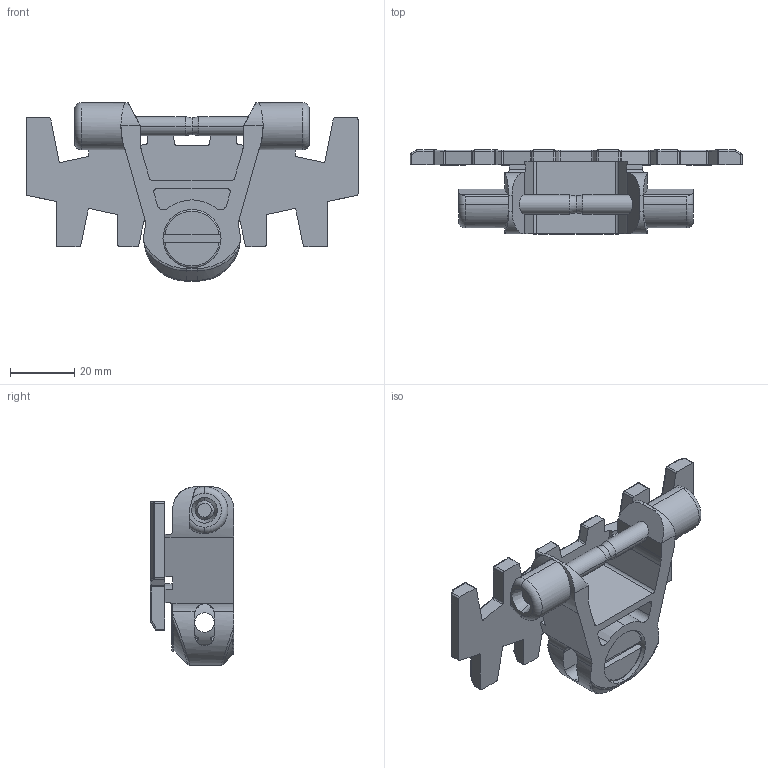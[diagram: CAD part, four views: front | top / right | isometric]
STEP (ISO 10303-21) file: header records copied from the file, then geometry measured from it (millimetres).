
FILE_DESCRIPTION (( 'STEP AP214' ), '1' );
FILE_NAME ('FCPC 5.step', '2017-04-04T13:29:12', ( '' ), ( '' ), 'SwSTEP 2.0', 'SolidWorks 2015', '' );
FILE_SCHEMA (( 'AUTOMOTIVE_DESIGN' ));
Length unit declared in the file: millimetre
Products named in the file (1): FCPC 5
Bounding box: 103 x 26 x 55.3 mm (x, y, z)
Volume: 33742.5 mm3; surface area: 20711.7 mm2
Topology: 3 solids, 3 shells, 451 faces, 1144 edges, 664 vertices
Faces by surface type: cylinder 208, plane 125, torus 52, sphere 50, cone 12, bspline 4
Entity records: 19483 total; most frequent: CARTESIAN_POINT 3782, DIRECTION 2352, ORIENTED_EDGE 2208, EDGE_CURVE 1104, AXIS2_PLACEMENT_3D 910, VERTEX_POINT 656, VECTOR 532, LINE 532
